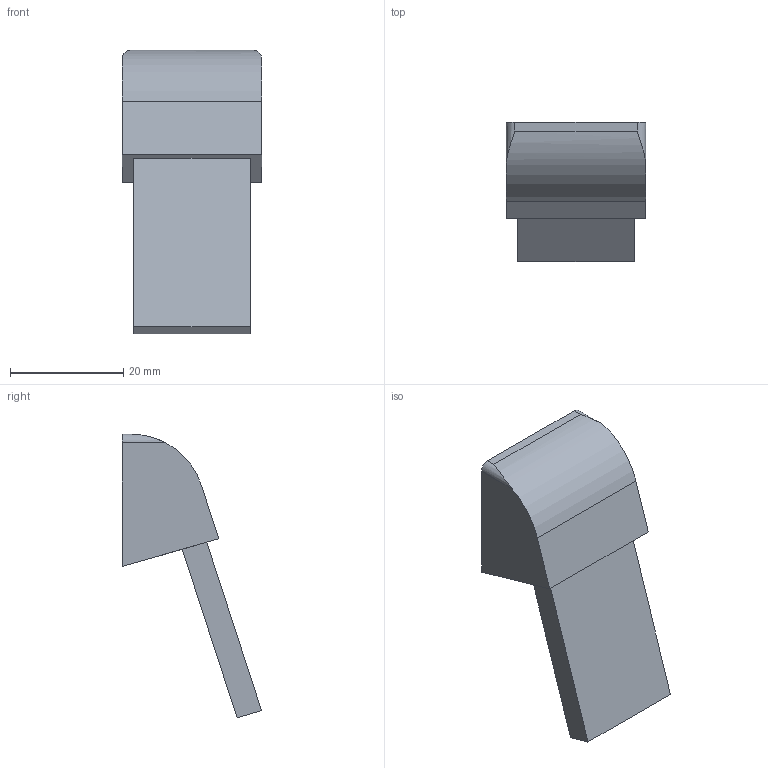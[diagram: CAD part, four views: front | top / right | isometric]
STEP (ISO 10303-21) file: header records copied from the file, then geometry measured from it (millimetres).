
FILE_DESCRIPTION( ( '' ), '1' );
FILE_NAME( 'C:/Documents and Settings/Nikhil/Desktop/Nik/Done/9113451.stp', '2013-10-24T05:30:10', ( '' ), ( '' ), ' ', ' ', ' ' );
FILE_SCHEMA( ( 'automotive_design' ) );
Length unit declared in the file: millimetre
Products named in the file (1): 1
Bounding box: 24.6 x 24.54 x 50 mm (x, y, z)
Volume: 9758.8 mm3; surface area: 3914.8 mm2
Topology: 1 solids, 1 shells, 17 faces, 39 edges, 26 vertices
Faces by surface type: plane 12, cylinder 5
Entity records: 980 total; most frequent: CARTESIAN_POINT 101, STYLED_ITEM 83, PRESENTATION_STYLE_ASSIGNMENT 83, COLOUR_RGB 83, DIRECTION 81, ORIENTED_EDGE 78, EDGE_CURVE 39, CURVE_STYLE 39
